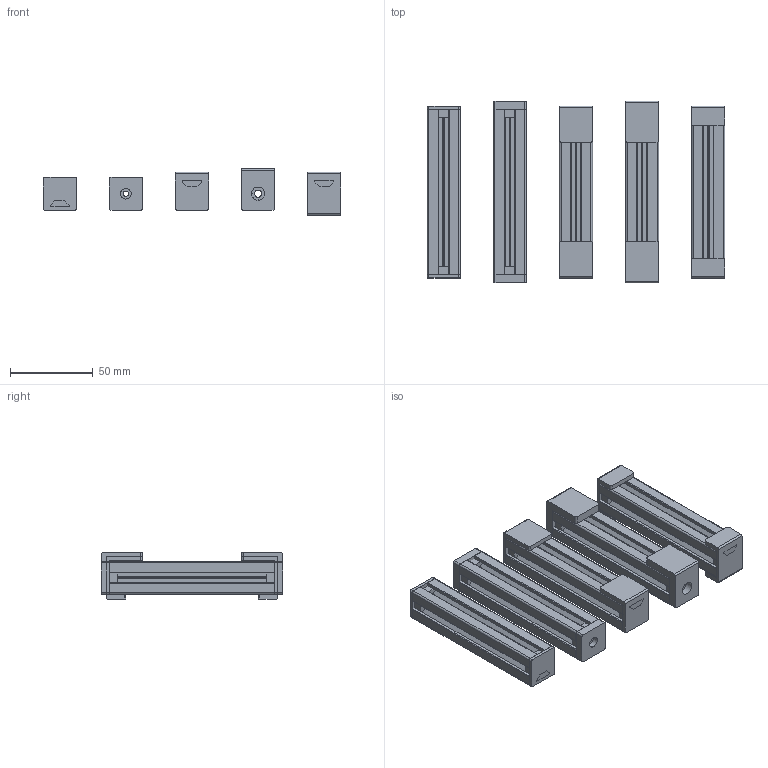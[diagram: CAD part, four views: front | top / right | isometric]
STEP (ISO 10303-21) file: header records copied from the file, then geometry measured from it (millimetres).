
FILE_DESCRIPTION(/* description */ ('','CAx-IF Rec.Pracs.---Representation and Presentation of Product Manufacturing Information (PMI)---4.0---2014-10-13'),/* implementation_level */ '2;1');
FILE_NAME(/* name */ 'Assieme_tappo_tslot.stp',/* time_stamp */ '2026-02-28T20:13:15+01:00',/* author */ ('R5800u'),/* organization */ (''),/* preprocessor_version */ 'ST-DEVELOPER v20',/* originating_system */ 'Autodesk Inventor 2025',/* authorisation */ '');
FILE_SCHEMA (('AP242_MANAGED_MODEL_BASED_3D_ENGINEERING_MIM_LF { 1 0 10303 442 1 1 4 }'));
Length unit declared in the file: millimetre
Products named in the file (12): Assieme_tappo_tslot; tappo_01; tslot-20x20-3; tappo_02; tappo_03; tappo_04; tappo_01_MIR1; tappo_02_MIR1; tappo_03_MIR1; tappo_04_MIR1; tappo_05; tappo_05_MIR
Assembly tree (15 placements, depth 2):
  Assieme_tappo_tslot
    tappo_01
    tslot-20x20-3  x5
    tappo_02
    tappo_03
    tappo_04
    tappo_01_MIR1
    tappo_02_MIR1
    tappo_03_MIR1
    tappo_04_MIR1
    tappo_05
    tappo_05_MIR
Bounding box: 180 x 110 x 27.95 mm (x, y, z)
Volume: 120550.7 mm3; surface area: 112352.1 mm2
Topology: 25 solids, 25 shells, 1021 faces, 2811 edges, 1874 vertices
Faces by surface type: plane 660, cylinder 361
Full cylindrical faces by diameter (mm): 3.2 x2, 4.2 x5, 4.3 x2, 6.5 x2, 8 x2
Entity records: 26044 total; most frequent: CARTESIAN_POINT 4827, DIRECTION 4443, ORIENTED_EDGE 3966, EDGE_CURVE 1983, AXIS2_PLACEMENT_3D 1539, LINE 1365, VECTOR 1365, VERTEX_POINT 1322
